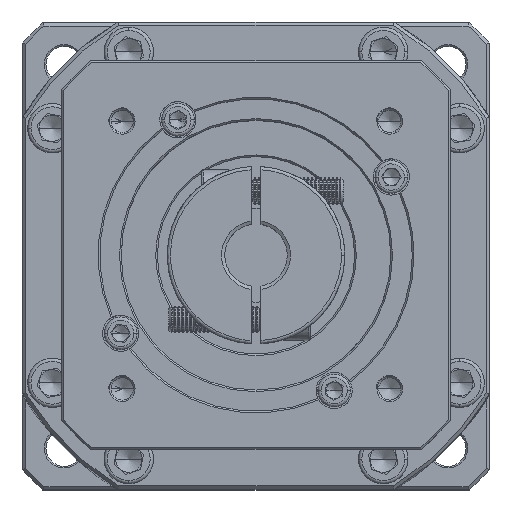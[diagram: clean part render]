
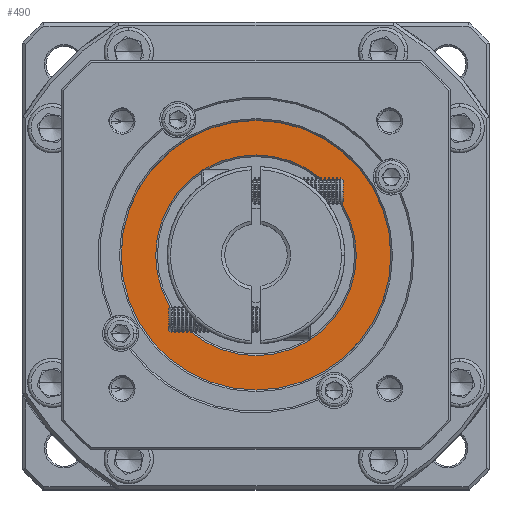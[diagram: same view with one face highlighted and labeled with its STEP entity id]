
A CAD part, top view. The second image highlights one B-rep face of the part: STEP entity #490.
In plain terms, the highlighted planar face has unit normal (0, 0, 1).
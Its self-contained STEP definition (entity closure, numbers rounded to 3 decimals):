
#388 = EDGE_LOOP ( 'NONE', ( #91758, #93763 ) ) ;
#490 = ADVANCED_FACE ( 'NONE', ( #125342, #136015 ), #73287, .T. ) ;
#2071 = VERTEX_POINT ( 'NONE', #52995 ) ;
#3809 = DIRECTION ( 'NONE',  ( 0., 0., 1. ) ) ;
#7133 = CARTESIAN_POINT ( 'NONE',  ( -109.1, 94.273, -36.533 ) ) ;
#12526 = DIRECTION ( 'NONE',  ( 0., 0., 1. ) ) ;
#12697 = CIRCLE ( 'NONE', #112139, 30.5 ) ;
#17522 = DIRECTION ( 'NONE',  ( 0., 0., -1. ) ) ;
#23959 = DIRECTION ( 'NONE',  ( 1., 0., 0. ) ) ;
#25039 = CARTESIAN_POINT ( 'NONE',  ( -150.1, 94.273, -36.533 ) ) ;
#29352 = AXIS2_PLACEMENT_3D ( 'NONE', #118860, #3809, #50951 ) ;
#31412 = CARTESIAN_POINT ( 'NONE',  ( -109.1, 94.273, -36.533 ) ) ;
#33385 = DIRECTION ( 'NONE',  ( 0., 0., -1. ) ) ;
#39045 = EDGE_CURVE ( 'NONE', #2071, #74028, #146575, .T. ) ;
#47767 = VERTEX_POINT ( 'NONE', #73346 ) ;
#50851 = AXIS2_PLACEMENT_3D ( 'NONE', #90799, #136410, #79905 ) ;
#50951 = DIRECTION ( 'NONE',  ( 1., 0., 0. ) ) ;
#52995 = CARTESIAN_POINT ( 'NONE',  ( -109.1, 124.773, -36.533 ) ) ;
#58270 = ORIENTED_EDGE ( 'NONE', *, *, #134346, .T. ) ;
#73287 = PLANE ( 'NONE',  #29352 ) ;
#73346 = CARTESIAN_POINT ( 'NONE',  ( -68.1, 94.273, -36.533 ) ) ;
#74028 = VERTEX_POINT ( 'NONE', #132134 ) ;
#74246 = AXIS2_PLACEMENT_3D ( 'NONE', #136094, #12526, #23959 ) ;
#78582 = DIRECTION ( 'NONE',  ( 0., -1., 0. ) ) ;
#79905 = DIRECTION ( 'NONE',  ( 1., 0., 0. ) ) ;
#81187 = EDGE_CURVE ( 'NONE', #47767, #146107, #105696, .T. ) ;
#84665 = CIRCLE ( 'NONE', #50851, 41. ) ;
#90799 = CARTESIAN_POINT ( 'NONE',  ( -109.1, 94.273, -36.533 ) ) ;
#91758 = ORIENTED_EDGE ( 'NONE', *, *, #81187, .T. ) ;
#93763 = ORIENTED_EDGE ( 'NONE', *, *, #125389, .T. ) ;
#105696 = CIRCLE ( 'NONE', #74246, 41. ) ;
#106977 = EDGE_LOOP ( 'NONE', ( #58270, #129567 ) ) ;
#112139 = AXIS2_PLACEMENT_3D ( 'NONE', #7133, #17522, #131095 ) ;
#118611 = AXIS2_PLACEMENT_3D ( 'NONE', #31412, #33385, #78582 ) ;
#118860 = CARTESIAN_POINT ( 'NONE',  ( -109.1, 94.273, -36.533 ) ) ;
#125342 = FACE_OUTER_BOUND ( 'NONE', #388, .T. ) ;
#125389 = EDGE_CURVE ( 'NONE', #146107, #47767, #84665, .T. ) ;
#129567 = ORIENTED_EDGE ( 'NONE', *, *, #39045, .T. ) ;
#131095 = DIRECTION ( 'NONE',  ( 0., -1., 0. ) ) ;
#132134 = CARTESIAN_POINT ( 'NONE',  ( -109.1, 63.773, -36.533 ) ) ;
#134346 = EDGE_CURVE ( 'NONE', #74028, #2071, #12697, .T. ) ;
#136015 = FACE_BOUND ( 'NONE', #106977, .T. ) ;
#136094 = CARTESIAN_POINT ( 'NONE',  ( -109.1, 94.273, -36.533 ) ) ;
#136410 = DIRECTION ( 'NONE',  ( 0., 0., 1. ) ) ;
#146107 = VERTEX_POINT ( 'NONE', #25039 ) ;
#146575 = CIRCLE ( 'NONE', #118611, 30.5 ) ;
